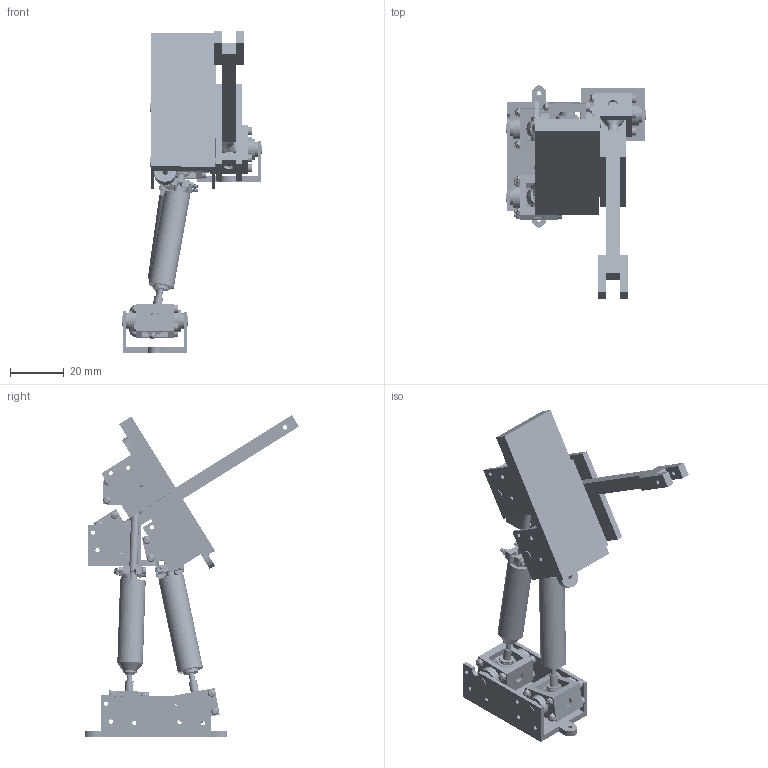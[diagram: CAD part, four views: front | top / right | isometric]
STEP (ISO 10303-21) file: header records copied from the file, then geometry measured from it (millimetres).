
FILE_DESCRIPTION(/* description */ (''),/* implementation_level */ '2;1');
FILE_NAME(/* name */ 'Flexion by 58 degrees from 06 project 95 from 05 Project Four Fingers etc.step',/* time_stamp */ '2026-07-05T19:13:10-04:00',/* author */ (''),/* organization */ (''),/* preprocessor_version */ 'ST-DEVELOPER v20.1',/* originating_system */ 'Autodesk Translation Framework v15.8.0.0',/* authorisation */ '');
FILE_SCHEMA (('AUTOMOTIVE_DESIGN { 1 0 10303 214 3 1 1 }'));
Products named in the file (153): 2026-07-05-19-13-06-752; 2026-07-05-19-13-06-753; #322219; #322220; 2026-07-05-19-13-06-752_3; 2026-07-05-19-13-06-824; #322223; #322224; #322225; #322226; 2026-07-05-19-13-06-810; 2026-07-05-19-13-06-811; 2026-07-05-19-13-06-811_1; 2026-07-05-19-13-06-811_2; #322231; #322232; #322233; #322234; 2026-07-05-19-13-06-810_3; 2026-07-05-19-13-06-811_5; #322237; 2026-07-05-19-13-06-810_5; 2026-07-05-19-13-06-809; 2026-07-05-19-13-06-810_6; 2026-07-05-19-13-06-811_6; #322242; #322243; #322244; #322245; #322246; #322247; #322248; #322249; 2026-07-05-19-13-06-821; 2026-07-05-19-13-06-822; 2026-07-05-19-13-06-823; 2026-07-05-19-13-06-823_1; #322254; #322255; #322256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
Assembly tree (162 placements, depth 7):
  2026-07-05-19-13-06-752
    2026-07-05-19-13-06-753
      #322219
      #322220
      2026-07-05-19-13-06-752_3
        2026-07-05-19-13-06-824
        #322223
          #322224
            #322225
            #322226
              2026-07-05-19-13-06-810
              2026-07-05-19-13-06-811
              2026-07-05-19-13-06-811_1
              2026-07-05-19-13-06-811_2
              #322231
              #322232
              #322233
              #322234
              2026-07-05-19-13-06-810_3
              2026-07-05-19-13-06-811_5
              #322237
              2026-07-05-19-13-06-810_5
              2026-07-05-19-13-06-809
              2026-07-05-19-13-06-810_6
              2026-07-05-19-13-06-811_6
              #322242
            #322243
              #322244
              #322245
              #322246
        #322247
          #322248
          #322249
            2026-07-05-19-13-06-821
            2026-07-05-19-13-06-822
            2026-07-05-19-13-06-823
            2026-07-05-19-13-06-823_1
            #322254
            #322255
            #322256
            #322257
            2026-07-05-19-13-06-822_4
            2026-07-05-19-13-06-822_5
            #322260
            2026-07-05-19-13-06-823_3
            2026-07-05-19-13-06-823_4
            2026-07-05-19-13-06-823_5
            2026-07-05-19-13-06-823_6
            #322265
          #322266
            #322267
            #322268
            #322269
      2026-07-05-19-13-06-753_2
    #322271
      2026-07-05-19-13-06-767_1
        #322273
      2026-07-05-19-13-06-767_2
      2026-07-05-19-13-06-767_3
        2026-07-05-19-13-06-766_1
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Bounding box: 52.29 x 79.4 x 119.43 mm (x, y, z)
Volume: 34055 mm3; surface area: 43769.3 mm2
Topology: 136 solids, 140 shells, 5220 faces, 13347 edges, 8588 vertices
Faces by surface type: cylinder 2816, plane 1062, cone 651, bspline 535, torus 156
Full cylindrical faces by diameter (mm): 0.971 x12, 1.002 x132, 1.021 x20, 1.145 x894, 1.2 x2, 1.257 x20, 1.333 x2, 1.379 x40, 1.4 x132, 1.541 x18, 1.545 x20, 1.586 x4, 1.6 x934, 1.72 x2, 1.907 x20, 1.926 x36, 1.97 x2, 2 x13, 2.1 x4, 2.2 x4, 2.625 x4, 2.722 x2, 3 x76, 3.6 x52, 4 x1, 4.979 x2, 5 x2, 5.5 x4, 5.6 x2, 5.8 x30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
Entity records: 319686 total; most frequent: CARTESIAN_POINT 217786, ORIENTED_EDGE 23342, DIRECTION 16941, EDGE_CURVE 11683, VERTEX_POINT 7504, AXIS2_PLACEMENT_3D 6647, EDGE_LOOP 5051, FACE_OUTER_BOUND 4604
